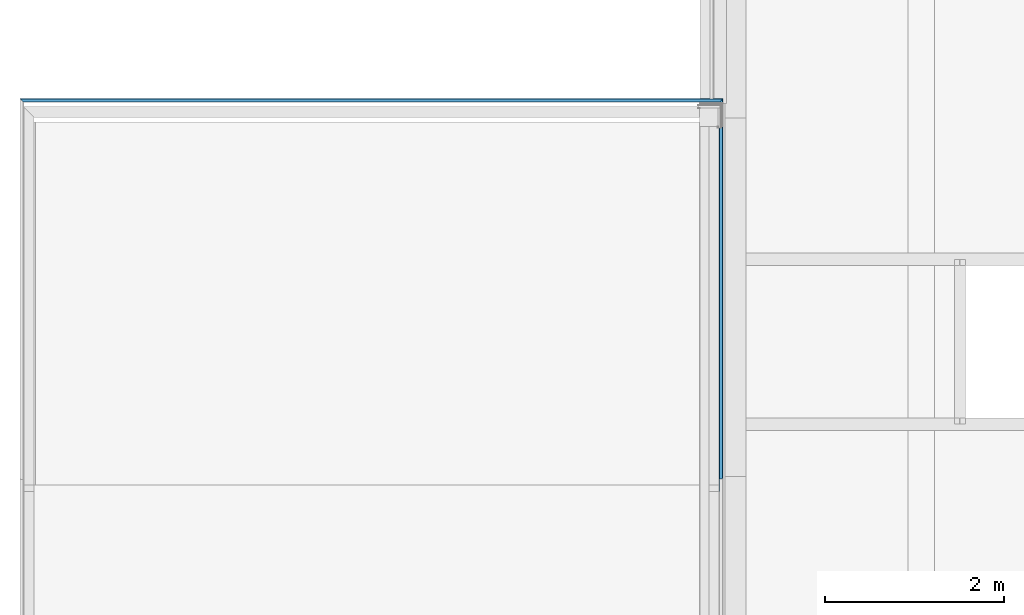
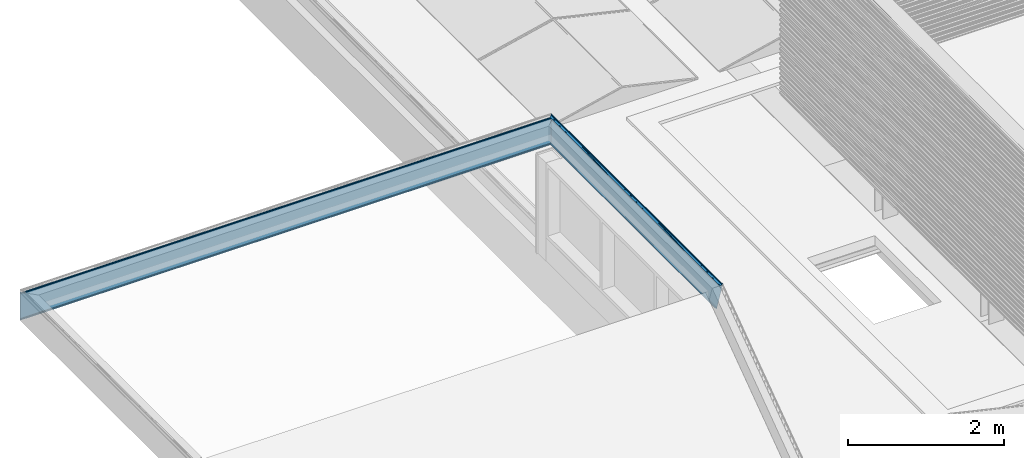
# One storey, part 21 of 63: 5 building element parts, 2 elements without a shape of their own.
"""IFC2X3 building model written with IfcOpenShell, lengths in millimetres."""

from ifc_helpers import new_model, entity, si_unit, converted_unit, derived_unit, money_unit, direction, frame, origin_with_axes, place, context, subcontext, project, spatial, faceted_brep, material, type_object, element, aggregate, save


model = new_model("IFC2X3")

# Units and contexts
model_context = context("Model", 3, precision=0.01, world=origin_with_axes(), true_north=direction((0.0, 1.0)))
body_context = subcontext(model_context, "Body", "Model", "MODEL_VIEW")
ifc_project = project(units=[si_unit("LENGTHUNIT", "METRE", prefix="MILLI"), si_unit("AREAUNIT", "SQUARE_METRE"), si_unit("VOLUMEUNIT", "CUBIC_METRE"), converted_unit("PLANEANGLEUNIT", "DEGREE", entity("IfcPlaneAngleMeasure", 0.0174532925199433), si_unit("PLANEANGLEUNIT", "RADIAN"), dimensions=[0, 0, 0, 0, 0, 0, 0]), money_unit("EUR"), converted_unit("TIMEUNIT", "Year", entity("IfcTimeMeasure", 31557600.0), si_unit("TIMEUNIT", "SECOND"), dimensions=[0, 0, 1, 0, 0, 0, 0]), si_unit("MASSUNIT", "GRAM", prefix="KILO"), si_unit("THERMODYNAMICTEMPERATUREUNIT", "DEGREE_CELSIUS"), si_unit("LUMINOUSINTENSITYUNIT", "LUMEN"), si_unit("ENERGYUNIT", "JOULE", prefix="MEGA"), derived_unit("THERMALCONDUCTANCEUNIT", [(si_unit("POWERUNIT", "WATT"), 1), (si_unit("LENGTHUNIT", "METRE"), -1), (si_unit("THERMODYNAMICTEMPERATUREUNIT", "KELVIN"), -1)]), derived_unit("SPECIFICHEATCAPACITYUNIT", [(si_unit("ENERGYUNIT", "JOULE"), 1), (si_unit("MASSUNIT", "GRAM", prefix="KILO"), -1), (si_unit("THERMODYNAMICTEMPERATUREUNIT", "KELVIN"), -1)]), derived_unit("MASSDENSITYUNIT", [(si_unit("MASSUNIT", "GRAM", prefix="KILO"), 1), (si_unit("VOLUMEUNIT", "CUBIC_METRE"), -1)])], contexts=[model_context])

# Site, building, storey
site_placement = place(None, origin_with_axes())
site = spatial("IfcSite", under=ifc_project, at=site_placement, Name="<site naam>", CompositionType="ELEMENT")
building_placement = place(site_placement, origin_with_axes())
building = spatial("IfcBuilding", under=site, at=building_placement, Name="<Naam gebouw>", CompositionType="ELEMENT")
storey_placement = place(building_placement, frame((0.0, 0.0, 12770.0), z_axis=(0.0, 0.0, 1.0), x_axis=(1.0, 0.0, 0.0)))
storey = spatial("IfcBuildingStorey", under=building, at=storey_placement, Name="04 4e verdieping", CompositionType="ELEMENT", Elevation=12770.0)

# Beam, building element parts
beam_type = type_object("IfcBeamType", Name="Aluminium daktrim (hoofdtrap) 45 x 485", PredefinedType="BEAM")
beam_1_placement = place(storey_placement, frame((12028.41571728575, 12322.86545989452, 1715.97308244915), z_axis=(0.0, 0.0, 1.0), x_axis=(2.040052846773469e-06, 0.9999999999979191, 0.0)))
beam_1 = element("IfcBeam", 1, at=beam_1_placement, inside=storey, type_object=beam_type, Name="47_Balk_Aluminium", ObjectType="BEAM")
ifc_material = material(Name="aluminium")
building_element_part_1_placement = place(beam_1_placement, origin_with_axes())
building_element_part_1 = element("IfcBuildingElementPart", 2, at=building_element_part_1_placement, material=ifc_material, Name="aluminium", context=body_context, shape_type="Brep", body=[
    faceted_brep([(-145.0058874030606, 7921.916114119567, 242.1301629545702), (-111.1979101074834, 7955.724160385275, 237.7678423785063), (-111.1979101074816, 111.1977424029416, 237.7678423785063), (-145.0058874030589, 145.0056687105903, 242.1301629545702), (-145.0058874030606, 7921.916114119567, 253.0654661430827), (-143.8058874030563, 7923.116116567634, 253.0654661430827), (-143.8058874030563, 7923.116116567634, 243.4267564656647), (-110.0058874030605, 7956.916185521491, 239.0654661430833), (-110.0058874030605, 7956.916185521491, -190.9343633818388), (-115.2058874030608, 7951.716174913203, -190.9343633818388), (-115.2058874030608, 7951.716174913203, -173.4343633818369), (-114.0058874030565, 7952.916177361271, -173.4343633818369), (-114.0058874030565, 7952.916177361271, -189.7343633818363), (-111.1979101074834, 7955.724160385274, -189.7343633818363), (-111.1979101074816, 111.1977424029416, -189.7343633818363), (-114.0058874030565, 114.0057154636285, -189.7343633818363), (-114.0058874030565, 114.0057154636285, -173.4343633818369), (-115.2058874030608, 115.2057136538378, -173.4343633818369), (-115.2058874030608, 115.2057136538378, -190.9343633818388), (-110.0058874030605, 110.0057214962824, -190.9343633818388), (-110.0058874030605, 110.0057214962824, 239.0654661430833), (-143.8058874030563, 143.8056705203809, 243.4267564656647), (-143.8058874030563, 143.8056705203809, 253.0654661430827), (-145.0058874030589, 145.0056687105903, 253.0654661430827)], [[[0, 1, 2, 3]], [[0, 4, 5, 6, 7, 8, 9, 10, 11, 12, 13, 1]], [[1, 13, 14, 2]], [[3, 2, 14, 15, 16, 17, 18, 19, 20, 21, 22, 23]], [[4, 0, 3, 23]], [[5, 4, 23, 22]], [[6, 5, 22, 21]], [[7, 6, 21, 20]], [[8, 7, 20, 19]], [[9, 8, 19, 18]], [[10, 9, 18, 17]], [[11, 10, 17, 16]], [[12, 11, 16, 15]], [[13, 12, 15, 14]]]),
])
building_element_part_2_placement = place(beam_1_placement, origin_with_axes())
building_element_part_2 = element("IfcBuildingElementPart", 3, at=building_element_part_2_placement, material=ifc_material, Name="aluminium", context=body_context, shape_type="Brep", body=[
    faceted_brep([(-112.0058939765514, 7954.916174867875, -185.434369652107), (-112.0058939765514, 7954.916174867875, -165.4343549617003), (-112.0058939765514, 112.0057250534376, -165.4343549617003), (-112.0058939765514, 112.0057250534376, -185.434369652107), (-113.2058874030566, 7953.716178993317, -185.434369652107), (-113.2058874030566, 7953.716178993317, -166.4412756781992), (-145.0058874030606, 7921.916114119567, -160.8340776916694), (-145.0058874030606, 7921.916114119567, -145.4343549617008), (-143.8058874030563, 7923.116116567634, -145.4343549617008), (-143.8058874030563, 7923.116116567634, -159.8271581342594), (-143.8058874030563, 143.8056705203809, -159.8271581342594), (-143.8058874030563, 143.8056705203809, -145.4343549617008), (-145.0058874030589, 145.0056687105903, -145.4343549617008), (-145.0058874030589, 145.0056687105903, -160.8340776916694), (-113.2058874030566, 113.2057166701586, -166.4412756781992), (-113.2058874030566, 113.2057166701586, -185.434369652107)], [[[0, 1, 2, 3]], [[0, 4, 5, 6, 7, 8, 9, 1]], [[1, 9, 10, 2]], [[3, 2, 10, 11, 12, 13, 14, 15]], [[4, 0, 3, 15]], [[5, 4, 15, 14]], [[6, 5, 14, 13]], [[7, 6, 13, 12]], [[8, 7, 12, 11]], [[9, 8, 11, 10]]]),
])
aggregate(beam_1, [building_element_part_1, building_element_part_2])

beam_2_placement = place(storey_placement, frame((12028.4133810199, 7930.472148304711, 1715.97308244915), z_axis=(0.0, 0.0, 1.0), x_axis=(0.9999999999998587, -5.318890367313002e-07, 0.0)))
beam_2 = element("IfcBeam", 4, at=beam_2_placement, inside=storey, type_object=beam_type, Name="47_Balk_Aluminium", ObjectType="BEAM")
building_element_part_3_placement = place(beam_2_placement, origin_with_axes())
building_element_part_3 = element("IfcBuildingElementPart", 5, at=building_element_part_3_placement, material=ifc_material, Name="aluminium", context=body_context, shape_type="Brep", body=[
    faceted_brep([(-121.4991945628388, 4270.894300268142, 294.0656451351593), (-122.2068758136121, 4270.186620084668, 293.7721760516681), (-122.2068758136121, -110.2513231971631, 293.7721760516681), (-121.499194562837, -110.3462523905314, 294.0656451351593), (-110.9991946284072, 4281.394284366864, 294.0656451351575), (-110.2920878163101, 4282.101390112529, 293.7727519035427), (-109.9991945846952, 4282.394282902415, 293.0656450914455), (-109.9991945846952, 4282.394282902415, 250.0656451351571), (-110.2920878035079, 4282.101390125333, 249.3585383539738), (-110.9991945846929, 4281.39428441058, 249.0656451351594), (-111.4991731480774, 4280.894306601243, 249.1996073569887), (-117.6977781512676, 4274.695710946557, 252.7781690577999), (-117.9774779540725, 4274.416011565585, 253.1426342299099), (-117.9175736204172, 4274.475915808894, 253.598132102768), (-117.5531500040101, 4274.840338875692, 253.8778860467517), (-117.0976432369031, 4275.295844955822, 253.8180493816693), (-113.8976320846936, 4278.495851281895, 251.9718951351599), (-113.8976320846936, 4278.495851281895, 252.565645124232), (-113.7511854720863, 4278.642297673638, 252.9191985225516), (-113.3976320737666, 4278.995850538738, 253.0656451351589), (-113.1984133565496, 4279.195068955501, 253.0656451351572), (-112.8448599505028, 4279.548621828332, 252.9191985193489), (-112.6984133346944, 4279.695068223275, 252.5656451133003), (-112.6984133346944, 4279.695068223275, 251.278535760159), (-111.9489165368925, 4280.444563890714, 250.8452329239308), (-111.6116899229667, 4280.781789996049, 250.7856033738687), (-111.3150643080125, 4281.078415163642, 250.9567486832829), (-111.197910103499, 4281.195569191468, 251.278544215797), (-111.1984133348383, 4281.195065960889, 281.0656535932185), (-111.3448629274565, 4281.048616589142, 281.419201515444), (-111.6984133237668, 4280.695066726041, 281.5656451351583), (-112.1984133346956, 4280.195067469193, 281.5656451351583), (-112.5519667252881, 4279.841514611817, 281.4191985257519), (-112.6984133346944, 4279.695068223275, 281.0656451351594), (-112.6984133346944, 4279.695068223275, 279.5656451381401), (-112.8448599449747, 4279.54862183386, 279.212091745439), (-113.1984133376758, 4279.195068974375, 279.065645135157), (-114.971850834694, 4277.42163415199, 279.0656451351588), (-120.1773366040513, 4272.216156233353, 275.7461395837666), (-120.3116945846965, 4272.081798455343, 275.4250201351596), (-120.5695070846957, 4271.823986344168, 275.3156451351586), (-120.889819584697, 4271.503674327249, 275.4484576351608), (-121.5401955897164, 4270.853299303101, 275.2060759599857), (-121.694507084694, 4270.698988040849, 274.8976763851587), (-121.9640383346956, 4270.429457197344, 274.8078326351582), (-122.2726320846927, 4270.120863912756, 274.964082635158), (-128.1981216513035, 4264.195383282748, 274.066030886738), (-154.6486035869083, 4237.744941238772, 274.0656451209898), (-154.8951277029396, 4237.498417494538, 274.1677553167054), (-154.9972414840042, 4237.39630386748, 274.4142779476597), (-154.8947842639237, 4237.498760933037, 274.6611444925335), (-154.6476320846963, 4237.74591273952, 274.7629107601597), (-149.9991945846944, 4242.394343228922, 275.2648638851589), (-149.698413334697, 4242.695124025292, 275.5656451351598), (-147.2999758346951, 4245.093557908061, 275.5656451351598), (-146.9991945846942, 4245.394338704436, 275.2648638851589), (-143.9991945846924, 4248.394334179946, 275.2648638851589), (-143.6984133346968, 4248.695114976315, 275.5656451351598), (-141.2999758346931, 4251.093548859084, 275.5656451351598), (-140.9991945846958, 4251.394329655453, 275.2648638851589), (-137.9991945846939, 4254.394325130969, 275.2648638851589), (-137.6984133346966, 4254.695105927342, 275.5656451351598), (-135.2999758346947, 4257.09353981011, 275.5656451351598), (-134.9991945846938, 4257.394320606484, 275.2648638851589), (-131.9991945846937, 4260.394316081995, 275.2648638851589), (-131.6984133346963, 4260.695096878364, 275.5656451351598), (-129.2999758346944, 4263.093530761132, 275.5656451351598), (-128.9991945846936, 4263.394311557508, 275.2648638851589), (-128.1984107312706, 4264.195094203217, 275.2648638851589), (-120.0158638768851, 4272.377628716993, 277.1388822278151), (-113.4645529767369, 4278.928929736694, 282.3873432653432), (-112.6841977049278, 4279.709283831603, 282.7641787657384), (-112.19700300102, 4280.196477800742, 282.7648658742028), (-111.490808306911, 4280.902671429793, 283.0582564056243), (-111.1984133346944, 4281.195065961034, 283.7648638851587), (-111.1984133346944, 4281.195065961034, 292.3664263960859), (-111.3448599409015, 4281.048619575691, 292.719979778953), (-111.6984133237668, 4280.695066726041, 292.8664263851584), (-120.7999758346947, 4271.593517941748, 292.8664263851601), (-121.153529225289, 4271.239965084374, 292.7199797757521), (-121.2999758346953, 4271.093518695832, 292.3664263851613), (-121.2999758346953, 4271.093518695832, 290.6652544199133), (-121.4748532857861, 4270.918641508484, 290.2428198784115), (-121.8971453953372, 4270.496350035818, 290.0675987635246), (-122.3197220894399, 4270.073773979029, 290.2421324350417), (-122.4952867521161, 4269.898209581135, 290.6642818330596), (-122.4991919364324, 4269.894304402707, 293.0640177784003), (-122.4991919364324, -110.0222530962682, 293.0640177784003), (-122.4952867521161, -109.2460030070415, 290.6642818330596), (-122.3197220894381, -109.1094489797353, 290.2421324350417), (-121.8971453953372, -109.0529919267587, 290.0675987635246), (-121.4748532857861, -109.1096711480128, 290.2428198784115), (-121.2999758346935, -109.2463173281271, 290.6652544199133), (-121.2999758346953, -109.796600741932, 292.3664263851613), (-121.153529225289, -109.9109657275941, 292.7199797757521), (-120.7999758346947, -109.9583371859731, 292.8664263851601), (-111.6984133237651, -109.9583350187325, 292.8664263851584), (-111.3448599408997, -109.9109633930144, 292.719979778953), (-111.1984133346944, -109.7965983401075, 292.3664263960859), (-111.1984133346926, -107.0142240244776, 283.7648638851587), (-111.490808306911, -106.7856555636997, 283.0582564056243), (-112.1970030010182, -106.6907517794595, 282.7648658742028), (-112.684197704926, -106.6905296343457, 282.7641787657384), (-113.4645529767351, -106.5686336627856, 282.3873432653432), (-120.0158638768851, -104.8708991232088, 277.1388822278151), (-128.1984107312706, -104.2647064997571, 275.2648638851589), (-128.9991945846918, -104.2647066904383, 275.2648638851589), (-129.2999758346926, -104.3620014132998, 275.5656451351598), (-131.6984133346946, -104.3620019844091, 275.5656451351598), (-131.9991945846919, -104.2647074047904, 275.2648638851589), (-134.999194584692, -104.2647081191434, 275.2648638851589), (-135.2999758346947, -104.3620028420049, 275.5656451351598), (-137.6984133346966, -104.3620034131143, 275.5656451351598), (-137.9991945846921, -104.2647088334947, 275.2648638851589), (-140.9991945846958, -104.2647095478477, 275.2648638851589), (-141.2999758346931, -104.3620042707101, 275.5656451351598), (-143.698413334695, -104.3620048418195, 275.5656451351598), (-143.9991945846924, -104.2647102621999, 275.2648638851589), (-146.9991945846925, -104.264710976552, 275.2648638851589), (-147.2999758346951, -104.3620056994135, 275.5656451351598), (-149.698413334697, -104.3620062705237, 275.5656451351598), (-149.9991945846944, -104.264711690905, 275.2648638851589), (-154.6476320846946, -104.1023444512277, 274.7629107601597), (-154.8947842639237, -104.0694258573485, 274.6611444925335), (-154.9972414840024, -103.9895711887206, 274.4142779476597), (-154.8951277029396, -103.9098277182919, 274.1677553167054), (-154.6486035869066, -103.8767977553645, 274.0656451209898), (-128.1981216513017, -103.8769162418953, 274.066030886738), (-122.2726320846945, -104.1674104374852, 274.964082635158), (-121.9640383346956, -104.1168676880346, 274.8078326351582), (-121.694507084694, -104.1459296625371, 274.8976763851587), (-121.5401955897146, -104.2456886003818, 275.2060759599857), (-120.889819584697, -104.3240924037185, 275.4484576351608), (-120.5695070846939, -104.281131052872, 275.3156451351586), (-120.3116945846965, -104.3165108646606, 275.4250201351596), (-120.1773366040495, -104.4203843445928, 275.7461395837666), (-114.971850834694, -105.4941539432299, 279.0656451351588), (-113.1984133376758, -105.4941535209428, 279.065645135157), (-112.8448599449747, -105.5415249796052, 279.212091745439), (-112.6984133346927, -105.6558899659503, 279.5656451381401), (-112.6984133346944, -106.1410996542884, 281.0656451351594), (-112.5519667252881, -106.2554646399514, 281.4191985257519), (-112.1984133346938, -106.3028360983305, 281.5656451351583), (-111.6984133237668, -106.3028359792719, 281.5656451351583), (-111.3448629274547, -106.2554653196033, 281.419201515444), (-111.1984133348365, -106.1411020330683, 281.0656535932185), (-111.1979101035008, -96.50577264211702, 251.278544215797), (-111.3150643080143, -96.40168046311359, 250.9567486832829), (-111.6116899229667, -96.34631962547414, 250.7856033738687), (-111.9489165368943, -96.36560826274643, 250.8452329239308), (-112.6984133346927, -96.50577026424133, 251.278535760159), (-112.6984133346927, -96.92211555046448, 252.5656451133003), (-112.8448599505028, -97.03648061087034, 252.9191985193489), (-113.1984133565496, -97.08385223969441, 253.0656451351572), (-113.3976320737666, -97.083852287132, 253.0656451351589), (-113.7511854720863, -97.03648082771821, 252.9191985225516), (-113.8976320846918, -96.9221158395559, 252.565645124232), (-113.8976320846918, -96.73005367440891, 251.9718951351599), (-117.0976432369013, -97.32723572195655, 253.8180493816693), (-117.5531500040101, -97.34659138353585, 253.8778860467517), (-117.917573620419, -97.25609858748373, 253.598132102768), (-117.9774779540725, -97.10875728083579, 253.1426342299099), (-117.6977781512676, -96.99086252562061, 252.7781690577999), (-111.4991731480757, -95.83329250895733, 249.1996073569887), (-110.9991945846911, -95.78995921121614, 249.0656451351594), (-110.2920878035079, -95.88470212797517, 249.3585383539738), (-109.9991945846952, -96.11343209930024, 250.0656451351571), (-109.9991945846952, -110.0227765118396, 293.0656450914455), (-110.2920878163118, -110.2515066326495, 293.7727519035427), (-110.9991946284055, -110.3462498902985, 294.0656451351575)], [[[0, 1, 2, 3]], [[0, 4, 5, 6, 7, 8, 9, 10, 11, 12, 13, 14, 15, 16, 17, 18, 19, 20, 21, 22, 23, 24, 25, 26, 27, 28, 29, 30, 31, 32, 33, 34, 35, 36, 37, 38, 39, 40, 41, 42, 43, 44, 45, 46, 47, 48, 49, 50, 51, 52, 53, 54, 55, 56, 57, 58, 59, 60, 61, 62, 63, 64, 65, 66, 67, 68, 69, 70, 71, 72, 73, 74, 75, 76, 77, 78, 79, 80, 81, 82, 83, 84, 85, 86, 1]], [[1, 86, 87, 2]], [[3, 2, 87, 88, 89, 90, 91, 92, 93, 94, 95, 96, 97, 98, 99, 100, 101, 102, 103, 104, 105, 106, 107, 108, 109, 110, 111, 112, 113, 114, 115, 116, 117, 118, 119, 120, 121, 122, 123, 124, 125, 126, 127, 128, 129, 130, 131, 132, 133, 134, 135, 136, 137, 138, 139, 140, 141, 142, 143, 144, 145, 146, 147, 148, 149, 150, 151, 152, 153, 154, 155, 156, 157, 158, 159, 160, 161, 162, 163, 164, 165, 166, 167, 168, 169]], [[4, 0, 3, 169]], [[5, 4, 169, 168]], [[6, 5, 168, 167]], [[7, 6, 167, 166]], [[8, 7, 166, 165]], [[9, 8, 165, 164]], [[10, 9, 164, 163]], [[11, 10, 163, 162]], [[12, 11, 162, 161]], [[13, 12, 161, 160]], [[14, 13, 160, 159]], [[15, 14, 159, 158]], [[16, 15, 158, 157]], [[17, 16, 157, 156]], [[18, 17, 156, 155]], [[19, 18, 155, 154]], [[20, 19, 154, 153]], [[21, 20, 153, 152]], [[22, 21, 152, 151]], [[23, 22, 151, 150]], [[24, 23, 150, 149]], [[25, 24, 149, 148]], [[26, 25, 148, 147]], [[27, 26, 147, 146]], [[28, 27, 146, 145]], [[29, 28, 145, 144]], [[30, 29, 144, 143]], [[31, 30, 143, 142]], [[32, 31, 142, 141]], [[33, 32, 141, 140]], [[34, 33, 140, 139]], [[35, 34, 139, 138]], [[36, 35, 138, 137]], [[37, 36, 137, 136]], [[38, 37, 136, 135]], [[39, 38, 135, 134]], [[40, 39, 134, 133]], [[41, 40, 133, 132]], [[42, 41, 132, 131]], [[43, 42, 131, 130]], [[44, 43, 130, 129]], [[45, 44, 129, 128]], [[46, 45, 128, 127]], [[47, 46, 127, 126]], [[48, 47, 126, 125]], [[49, 48, 125, 124]], [[50, 49, 124, 123]], [[51, 50, 123, 122]], [[52, 51, 122, 121]], [[53, 52, 121, 120]], [[54, 53, 120, 119]], [[55, 54, 119, 118]], [[56, 55, 118, 117]], [[57, 56, 117, 116]], [[58, 57, 116, 115]], [[59, 58, 115, 114]], [[60, 59, 114, 113]], [[61, 60, 113, 112]], [[62, 61, 112, 111]], [[63, 62, 111, 110]], [[64, 63, 110, 109]], [[65, 64, 109, 108]], [[66, 65, 108, 107]], [[67, 66, 107, 106]], [[68, 67, 106, 105]], [[69, 68, 105, 104]], [[70, 69, 104, 103]], [[71, 70, 103, 102]], [[72, 71, 102, 101]], [[73, 72, 101, 100]], [[74, 73, 100, 99]], [[75, 74, 99, 98]], [[76, 75, 98, 97]], [[77, 76, 97, 96]], [[78, 77, 96, 95]], [[79, 78, 95, 94]], [[80, 79, 94, 93]], [[81, 80, 93, 92]], [[82, 81, 92, 91]], [[83, 82, 91, 90]], [[84, 83, 90, 89]], [[85, 84, 89, 88]], [[86, 85, 88, 87]]]),
])
building_element_part_4_placement = place(beam_2_placement, origin_with_axes())
building_element_part_4 = element("IfcBuildingElementPart", 6, at=building_element_part_4_placement, material=ifc_material, Name="aluminium", context=body_context, shape_type="Brep", body=[
    faceted_brep([(-145.0058874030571, 4247.38764287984, 242.1301629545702), (-111.1979101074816, 4281.195569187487, 237.7678423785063), (-111.1979101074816, -92.13542368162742, 237.7678423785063), (-145.0058874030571, -93.54652520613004, 242.1301629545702), (-145.0058874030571, 4247.38764287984, 253.0654661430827), (-143.8058874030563, 4248.587641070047, 253.0654661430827), (-143.8058874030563, 4248.587641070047, 243.4267564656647), (-110.0058874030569, 4282.387590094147, 239.0654661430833), (-110.0058874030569, 4282.387590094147, -190.9343633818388), (-115.2058874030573, 4277.187597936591, -190.9343633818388), (-115.2058874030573, 4277.187597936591, -173.4343633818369), (-114.0058874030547, 4278.387596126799, -173.4343633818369), (-114.0058874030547, 4278.387596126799, -189.7343633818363), (-111.1979101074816, 4281.195569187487, -189.7343633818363), (-111.1979101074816, 46.15005127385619, -189.7343633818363), (-114.005887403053, 46.15005060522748, -189.7343633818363), (-114.005887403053, 40.87743864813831, -173.4343633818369), (-115.2058874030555, 40.8774383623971, -173.4343633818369), (-115.2058874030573, 46.53821807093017, -190.9343633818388), (-110.0058874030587, 46.53821930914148, -190.9343633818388), (-110.0058874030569, -92.55516981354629, 239.0654661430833), (-143.8058874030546, -93.96593807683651, 243.4267564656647), (-143.8058874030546, -97.08380162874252, 253.0654661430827), (-145.0058874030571, -97.08380191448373, 253.0654661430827)], [[[0, 1, 2, 3]], [[0, 4, 5, 6, 7, 8, 9, 10, 11, 12, 13, 1]], [[1, 13, 14, 2]], [[3, 2, 14, 15, 16, 17, 18, 19, 20, 21, 22, 23]], [[4, 0, 3, 23]], [[5, 4, 23, 22]], [[6, 5, 22, 21]], [[7, 6, 21, 20]], [[8, 7, 20, 19]], [[9, 8, 19, 18]], [[10, 9, 18, 17]], [[11, 10, 17, 16]], [[12, 11, 16, 15]], [[13, 12, 15, 14]]]),
])
building_element_part_5_placement = place(beam_2_placement, origin_with_axes())
building_element_part_5 = element("IfcBuildingElementPart", 7, at=building_element_part_5_placement, material=ifc_material, Name="aluminium", context=body_context, shape_type="Brep", body=[
    faceted_brep([(-112.0058939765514, 4280.387586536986, -185.434369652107), (-112.0058939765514, 4280.387586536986, -165.4343549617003), (-112.0058939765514, 38.28965139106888, -165.4343549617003), (-112.0058939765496, 44.75911866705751, -185.434369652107), (-113.2058874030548, 4279.187594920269, -185.434369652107), (-113.2058874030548, 4279.187594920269, -166.4412756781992), (-145.0058874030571, 4247.38764287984, -160.8340776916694), (-145.0058874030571, 4247.38764287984, -145.4343549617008), (-143.8058874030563, 4248.587641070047, -145.4343549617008), (-143.8058874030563, 4248.587641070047, -159.8271581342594), (-143.8058874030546, 36.47586633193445, -159.8271581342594), (-143.8058874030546, 31.82018129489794, -145.4343549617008), (-145.0058874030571, 31.82018100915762, -145.4343549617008), (-145.0058874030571, 36.80157746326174, -160.8340776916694), (-113.2058874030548, 38.61536289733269, -166.4412756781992), (-113.205887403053, 44.75911838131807, -185.434369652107)], [[[0, 1, 2, 3]], [[0, 4, 5, 6, 7, 8, 9, 1]], [[1, 9, 10, 2]], [[3, 2, 10, 11, 12, 13, 14, 15]], [[4, 0, 3, 15]], [[5, 4, 15, 14]], [[6, 5, 14, 13]], [[7, 6, 13, 12]], [[8, 7, 12, 11]], [[9, 8, 11, 10]]]),
])
aggregate(beam_2, [building_element_part_3, building_element_part_4, building_element_part_5])

save(model, "model.ifc")
